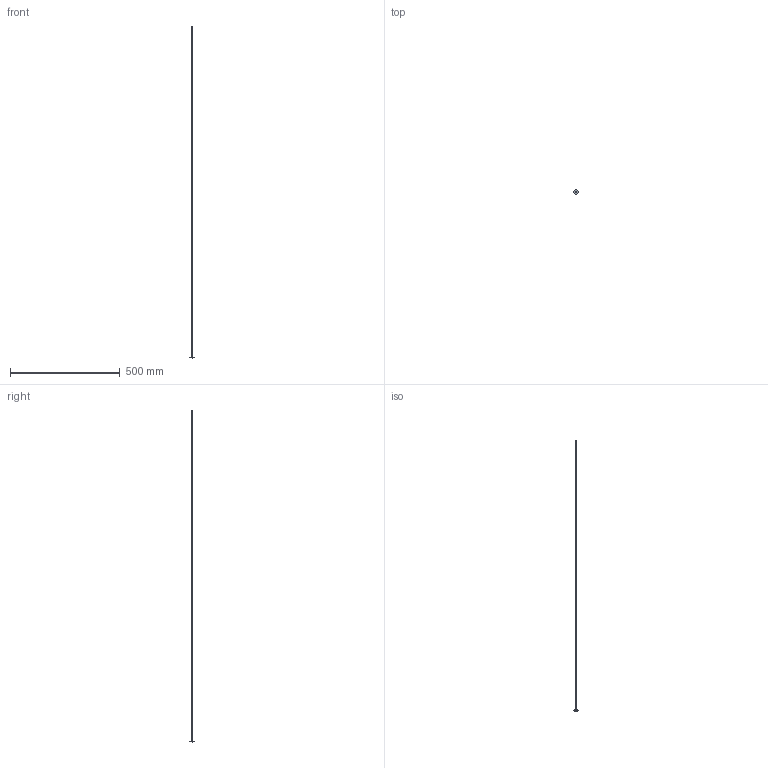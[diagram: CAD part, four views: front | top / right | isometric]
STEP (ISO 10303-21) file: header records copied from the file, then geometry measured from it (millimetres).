
FILE_DESCRIPTION(('FreeCAD Model'),'2;1');
FILE_NAME('Open CASCADE Shape Model','2026-10-09T19:41:49',(''),(''), 'Open CASCADE STEP processor 7.8','FreeCAD','Unknown');
FILE_SCHEMA(('AUTOMOTIVE_DESIGN { 1 0 10303 214 1 1 1 1 }'));
Length unit declared in the file: millimetre
Products named in the file (1): Body
Bounding box: 19.95 x 19.95 x 1509.4 mm (x, y, z)
Volume: 10127.7 mm3; surface area: 13940.2 mm2
Topology: 1 solids, 1 shells, 8 faces, 13 edges, 8 vertices
Faces by surface type: cylinder 3, plane 3, revolution 2
Full cylindrical faces by diameter (mm): 2.794 x1, 8.853 x1, 19.604 x1
Entity records: 215 total; most frequent: CARTESIAN_POINT 43, DIRECTION 33, ORIENTED_EDGE 24, AXIS2_PLACEMENT_3D 14, EDGE_CURVE 12, FACE_BOUND 10, EDGE_LOOP 10, ADVANCED_FACE 8
